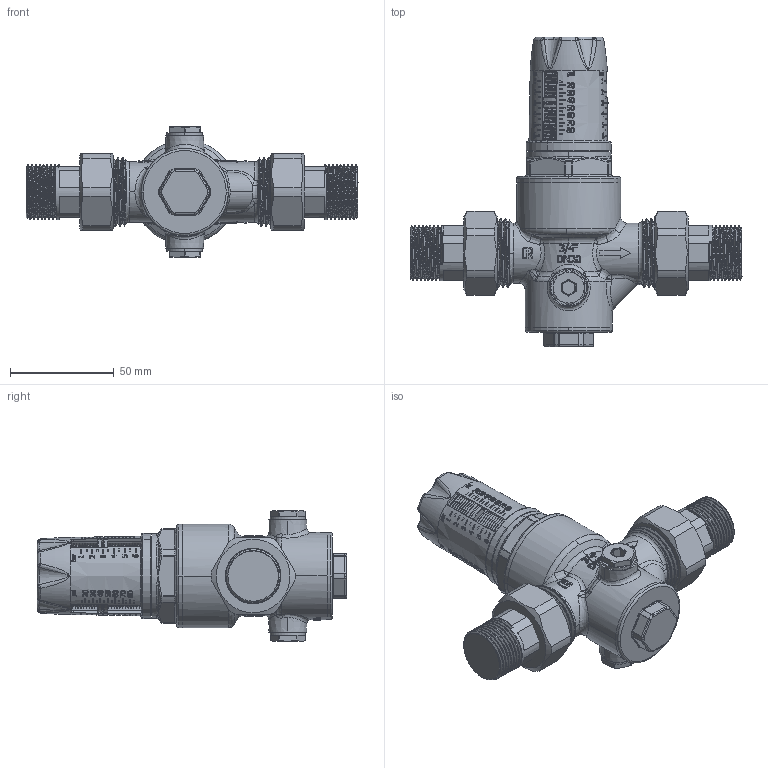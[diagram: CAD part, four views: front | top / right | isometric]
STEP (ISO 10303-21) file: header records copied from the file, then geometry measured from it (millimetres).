
FILE_DESCRIPTION (( 'STEP AP214' ), '1' );
FILE_NAME ('BPR_reduktor_cisnienia_wody_9042200_0_3D_AFRISO.STEP', '2025-04-16T13:46:55', ( '' ), ( '' ), 'SwSTEP 2.0', 'SolidWorks 2024', '' );
FILE_SCHEMA (( 'AUTOMOTIVE_DESIGN' ));
Length unit declared in the file: millimetre
Products named in the file (11): 3301.415.07; 6301.007.11; 7002.015.00; 3001.420.03; BPR_reduktor_cisnienia_wody_9042200_0_3D_AFRISO; 7027.015.00; 4401.008.00; 3751.420.00; 7012.015.00; 3494.125.00; 5301.415.00
Assembly tree (14 placements, depth 2):
  BPR_reduktor_cisnienia_wody_9042200_0_3D_AFRISO
    3001.420.03
    3301.415.07
    7012.015.00
    3751.420.00  x2
    3494.125.00  x2
    4401.008.00  x2
    6301.007.11  x2
    5301.415.00
    7002.015.00
    7027.015.00
Bounding box: 160 x 149.31 x 63 mm (x, y, z)
Volume: 325564.3 mm3; surface area: 75149.9 mm2
Topology: 14 solids, 14 shells, 3763 faces, 9830 edges, 6233 vertices
Faces by surface type: bspline 1539, plane 1113, cylinder 500, cone 308, torus 224, sphere 79
Entity records: 448997 total; most frequent: CARTESIAN_POINT 338805, ORIENTED_EDGE 18748, DIRECTION 10134, EDGE_CURVE 9374, VERTEX_POINT 6028, B_SPLINE_CURVE_WITH_KNOTS 4300, EDGE_LOOP 3904, VECTOR 3826
